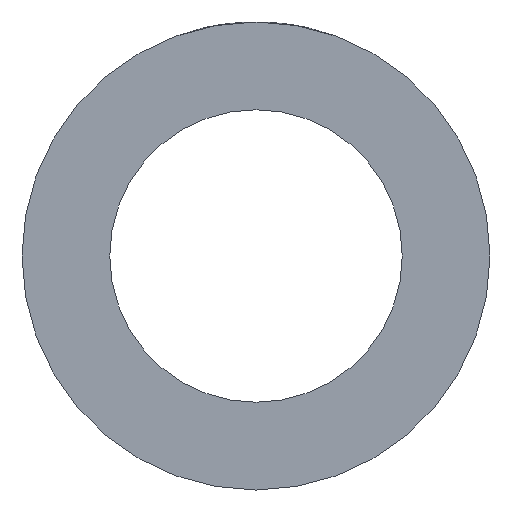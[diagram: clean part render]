
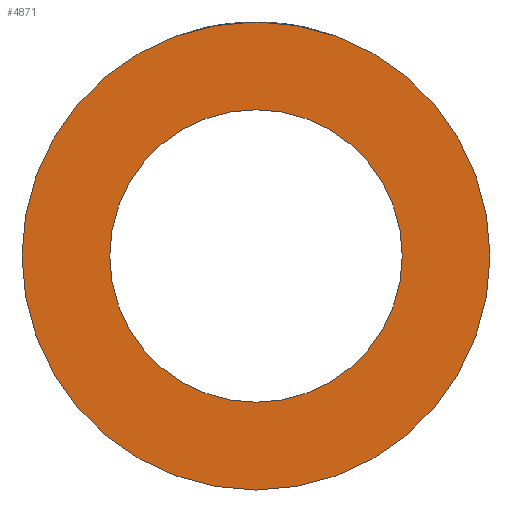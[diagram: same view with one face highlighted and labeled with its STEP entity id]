
A CAD part, left-side view. The second image highlights one B-rep face of the part: STEP entity #4871.
In plain terms, the highlighted planar face has unit normal (-1, 0, 0).
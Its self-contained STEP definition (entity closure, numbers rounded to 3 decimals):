
#113=PLANE('',#5249);
#333=CIRCLE('',#5248,16.);
#334=CIRCLE('',#5250,10.);
#1451=ORIENTED_EDGE('',*,*,#2917,.T.);
#1452=ORIENTED_EDGE('',*,*,#2916,.F.);
#2916=EDGE_CURVE('',#3649,#3649,#333,.T.);
#2917=EDGE_CURVE('',#3650,#3650,#334,.T.);
#3649=VERTEX_POINT('',#7641);
#3650=VERTEX_POINT('',#7644);
#4143=EDGE_LOOP('',(#1451));
#4144=EDGE_LOOP('',(#1452));
#4501=FACE_BOUND('',#4143,.T.);
#4502=FACE_BOUND('',#4144,.T.);
#4871=ADVANCED_FACE('',(#4501,#4502),#113,.F.);
#5248=AXIS2_PLACEMENT_3D('',#7640,#5745,#5746);
#5249=AXIS2_PLACEMENT_3D('',#7642,#5747,#5748);
#5250=AXIS2_PLACEMENT_3D('',#7643,#5749,#5750);
#5745=DIRECTION('',(1.,0.,0.));
#5746=DIRECTION('',(0.,0.,-1.));
#5747=DIRECTION('',(1.,0.,0.));
#5748=DIRECTION('',(0.,0.,-1.));
#5749=DIRECTION('',(1.,0.,0.));
#5750=DIRECTION('',(0.,0.,-1.));
#7640=CARTESIAN_POINT('',(-21.,0.,0.));
#7641=CARTESIAN_POINT('',(-21.,0.,-16.));
#7642=CARTESIAN_POINT('',(-21.,0.,0.));
#7643=CARTESIAN_POINT('',(-21.,0.,0.));
#7644=CARTESIAN_POINT('',(-21.,0.,-10.));
